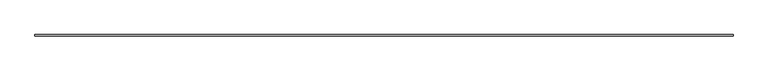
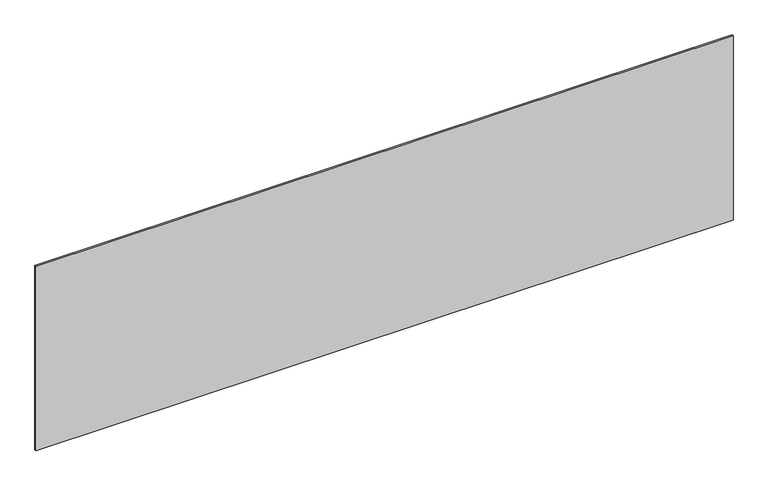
"""IFC4 building model written with IfcOpenShell, lengths in millimetres: plate geometry, システム パネル : 標準."""

import ifcopenshell
import ifcopenshell.guid

model = None  # the IFC model being written
_history = None  # IfcOwnerHistory: only IFC2X3 demands one
_inside = {}  # id of a spatial element -> (the spatial element, [elements in it])
_under = {}  # id of a project, library or spatial element -> (it, [spatial elements below it])
_declared = {}  # id of a project -> (the project, [libraries it declares])
_typed = {}  # id of a type object -> (the type object, [elements of that type])
_made_of = {}  # id of a material, layer set ... -> (it, [elements and type objects made of it])


def new_model(schema):
    """Start an empty IFC model of exactly this schema.

    Asked for "IFC4X3", IfcOpenShell would pick the latest addendum, in which some entities
    have other attributes; the version numbers below select the first issue.
    IFC2X3 requires an IfcOwnerHistory on every rooted entity: one is made here for all.
    """
    global model, _history
    if schema == "IFC4X3":
        model = ifcopenshell.file(schema_version=(4, 3, 0, 0))
    else:
        model = ifcopenshell.file(schema=schema)
    _inside.clear()
    _under.clear()
    _declared.clear()
    _typed.clear()
    _made_of.clear()
    _history = None
    if model.schema == "IFC2X3":
        org = make("IfcOrganization", Name="unknown")
        user = make(
            "IfcPersonAndOrganization",
            ThePerson=make("IfcPerson", FamilyName="unknown"),
            TheOrganization=org,
        )
        app = make(
            "IfcApplication",
            ApplicationDeveloper=org,
            Version="unknown",
            ApplicationFullName="unknown",
            ApplicationIdentifier="unknown",
        )
        _history = make(
            "IfcOwnerHistory",
            OwningUser=user,
            OwningApplication=app,
            ChangeAction="ADDED",
            CreationDate=0,
        )
    return model


def make(cls, **values):
    """One entity of the class cls with the attributes given. An attribute that is None is left unset."""
    return model.create_entity(
        cls, **{name: value for name, value in values.items() if value is not None}
    )


def rooted(cls, **values):
    """An entity with a GlobalId (a new one), such as an element, a storey or a relation."""
    return make(cls, GlobalId=ifcopenshell.guid.new(), OwnerHistory=_history, **values)


def si_unit(unit_type, name, prefix=None):
    """IfcSIUnit, for example si_unit("LENGTHUNIT", "METRE", prefix="MILLI")."""
    return make("IfcSIUnit", UnitType=unit_type, Prefix=prefix, Name=name)


def assignment(units):
    """IfcUnitAssignment: the units of a project."""
    return None if units is None else make("IfcUnitAssignment", Units=units)


def point(xyz):
    """IfcCartesianPoint."""
    return None if xyz is None else make("IfcCartesianPoint", Coordinates=xyz)


def direction(xyz):
    """IfcDirection."""
    return None if xyz is None else make("IfcDirection", DirectionRatios=xyz)


def frame(location, z_axis=None, x_axis=None):
    """IfcAxis2Placement3D, a coordinate frame: its origin and axes. An axis left out is left unset."""
    return make(
        "IfcAxis2Placement3D",
        Location=point(location),
        Axis=direction(z_axis),
        RefDirection=direction(x_axis),
    )


def origin():
    """The frame at (0, 0, 0) with its axes left unset."""
    return frame((0.0, 0.0, 0.0))


def origin_with_axes():
    """The frame at (0, 0, 0) with the z axis (0, 0, 1) and the x axis (1, 0, 0) written out."""
    return frame((0.0, 0.0, 0.0), z_axis=(0.0, 0.0, 1.0), x_axis=(1.0, 0.0, 0.0))


def place(relative_to, where):
    """IfcLocalPlacement: puts the frame where relative to a parent placement (None: the world)."""
    return make(
        "IfcLocalPlacement", PlacementRelTo=relative_to, RelativePlacement=where
    )


def context(
    kind, dimensions, precision=None, world=None, true_north=None, identifier=None
):
    """IfcGeometricRepresentationContext, for example the 3D "Model" context."""
    return make(
        "IfcGeometricRepresentationContext",
        ContextIdentifier=identifier,
        ContextType=kind,
        CoordinateSpaceDimension=dimensions,
        Precision=precision,
        WorldCoordinateSystem=world,
        TrueNorth=true_north,
    )


def project(units=None, contexts=None):
    """IfcProject with its units and contexts."""
    return rooted(
        "IfcProject",
        Name="project",
        RepresentationContexts=contexts,
        UnitsInContext=assignment(units),
    )


def spatial(cls, under=None, at=None, **own):
    """A site, building, storey or space (cls), placed at a placement, below another one or the project."""
    s = rooted(cls, ObjectPlacement=at, **own)
    if under is not None:
        _under.setdefault(under.id(), (under, []))[1].append(s)
    return s


def polyline(points):
    """IfcPolyline through the points."""
    return make("IfcPolyline", Points=[point(p) for p in points])


def outline(outer, holes=None, kind="AREA"):
    """IfcArbitraryClosedProfileDef: a profile drawn as a closed curve; with holes, ...WithVoids."""
    if holes is None:
        return make("IfcArbitraryClosedProfileDef", ProfileType=kind, OuterCurve=outer)
    return make(
        "IfcArbitraryProfileDefWithVoids",
        ProfileType=kind,
        OuterCurve=outer,
        InnerCurves=holes,
    )


def extrude(swept, where, along, depth):
    """IfcExtrudedAreaSolid: the profile swept, set in the frame where, extruded along a direction by depth."""
    return make(
        "IfcExtrudedAreaSolid",
        SweptArea=swept,
        Position=where,
        ExtrudedDirection=direction(along),
        Depth=depth,
    )


def shape(context_of_items, identifier, shape_type, items):
    """IfcShapeRepresentation: the items that make up one representation, for example the "Body"."""
    return make(
        "IfcShapeRepresentation",
        ContextOfItems=context_of_items,
        RepresentationIdentifier=identifier,
        RepresentationType=shape_type,
        Items=items,
    )


def source(mapping_origin, context_of_items, identifier, shape_type, items):
    """IfcRepresentationMap: a shape defined once, which mapped items show again and again."""
    return make(
        "IfcRepresentationMap",
        MappingOrigin=mapping_origin,
        MappedRepresentation=shape(context_of_items, identifier, shape_type, items),
    )


def transform(
    local_origin,
    x_axis=None,
    y_axis=None,
    z_axis=None,
    scale=None,
    scale2=None,
    scale3=None,
    uniform=True,
):
    """IfcCartesianTransformationOperator3D, or its non-uniform kind. x_axis, y_axis, z_axis: its Axis1, 2, 3."""
    if uniform:
        return make(
            "IfcCartesianTransformationOperator3D",
            Axis1=direction(x_axis),
            Axis2=direction(y_axis),
            LocalOrigin=point(local_origin),
            Scale=scale,
            Axis3=direction(z_axis),
        )
    return make(
        "IfcCartesianTransformationOperator3DnonUniform",
        Axis1=direction(x_axis),
        Axis2=direction(y_axis),
        LocalOrigin=point(local_origin),
        Scale=scale,
        Axis3=direction(z_axis),
        Scale2=scale2,
        Scale3=scale3,
    )


def mapped(mapping_source, mapping_target):
    """IfcMappedItem: shows the shape of a source again, moved by a transform."""
    return make(
        "IfcMappedItem", MappingSource=mapping_source, MappingTarget=mapping_target
    )


def made_of(thing, what):
    """Note that an element or type object is made of a material, layer set ...; save() writes the relation."""
    if what is not None:
        _made_of.setdefault(what.id(), (what, []))[1].append(thing)
    return thing


def element(
    cls,
    number,
    at=None,
    inside=None,
    cuts=None,
    type_object=None,
    material=None,
    context=None,
    identifier="Body",
    shape_type=None,
    held_by="IfcProductDefinitionShape",
    body=None,
    shapes=None,
    **own,
):
    """One element of the class cls, such as IfcWall. Its Tag is "e" and its number.

    at: its placement. inside: the storey or other place that contains it. cuts: it is an
    opening in that element (IfcRelVoidsElement). A single representation is given by context,
    identifier, shape_type and body (its items); several are given by shapes. held_by: the class
    of the entity that holds the representations. save() writes the other relations.
    """
    e = rooted(cls, Tag="e%d" % number, ObjectPlacement=at, **own)
    if body is not None:
        shapes = [shape(context, identifier, shape_type, body)]
    if shapes is not None:
        e.Representation = make(held_by, Representations=shapes)
    if inside is not None:
        _inside.setdefault(inside.id(), (inside, []))[1].append(e)
    if cuts is not None:
        rooted(
            "IfcRelVoidsElement", RelatingBuildingElement=cuts, RelatedOpeningElement=e
        )
    if type_object is not None:
        _typed.setdefault(type_object.id(), (type_object, []))[1].append(e)
    return made_of(e, material)


def aggregate(whole, parts):
    """IfcRelAggregates: a whole, such as a stair, and the parts it consists of."""
    return rooted("IfcRelAggregates", RelatingObject=whole, RelatedObjects=parts)


def save(model, path):
    """Write the relations noted so far, then the file.

    IfcRelAggregates (storeys below a building ...), IfcRelContainedInSpatialStructure (elements
    in a storey), IfcRelDefinesByType, IfcRelAssociatesMaterial and IfcRelDeclares: one each for
    every whole, place, type object, material and project.
    """
    for whole, parts in _under.values():
        aggregate(whole, parts)
    for where, things in _inside.values():
        rooted(
            "IfcRelContainedInSpatialStructure",
            RelatedElements=things,
            RelatingStructure=where,
        )
    for kind, things in _typed.values():
        rooted("IfcRelDefinesByType", RelatedObjects=things, RelatingType=kind)
    for what, things in _made_of.values():
        rooted("IfcRelAssociatesMaterial", RelatedObjects=things, RelatingMaterial=what)
    for by, libraries in _declared.values():
        rooted("IfcRelDeclares", RelatingContext=by, RelatedDefinitions=libraries)
    model.write(path)


def plate_cebc02fe(model_context):
    return source(origin(), model_context, "Body", "SweptSolid", [
        extrude(outline(polyline([(2264.1666667, -5.0), (-2264.1666667, -5.0), (-2264.1666667, 5.0), (2264.1666667, 5.0), (2264.1666667, -5.0)])), origin_with_axes(), (0.0, 0.0, 1.0), 1266.9562992),
    ])


if __name__ == "__main__":
    model = new_model("IFC4")
    model_context = context("Model", 3, world=origin())
    ifc_project = project(units=[si_unit("LENGTHUNIT", "METRE", prefix="MILLI")], contexts=[model_context])
    site = spatial("IfcSite", under=ifc_project)
    building = spatial("IfcBuilding", under=site)
    placement = place(None, origin())
    plate_shape = plate_cebc02fe(model_context)
    element("IfcPlate", 1, ObjectType="システム パネル : 標準", at=placement, inside=building, context=model_context, shape_type="MappedRepresentation", body=[
        mapped(plate_shape, transform((0.0, 0.0, 0.0), x_axis=(1.0, 0.0, 0.0), y_axis=(0.0, 1.0, 0.0), z_axis=(0.0, 0.0, 1.0))),
    ])
    save(model, "model.ifc")
